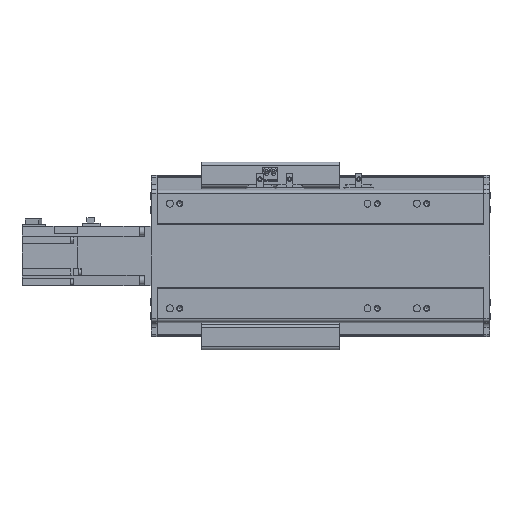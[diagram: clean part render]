
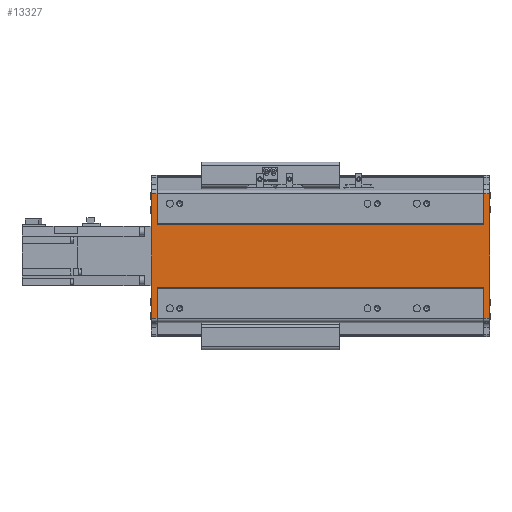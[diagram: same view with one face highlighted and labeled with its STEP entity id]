
A CAD part, front view. The second image highlights one B-rep face of the part: STEP entity #13327.
In plain terms, the highlighted planar face has unit normal (0, -1, 0).
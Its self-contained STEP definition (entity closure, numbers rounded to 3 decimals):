
#2855=ORIENTED_EDGE('',*,*,#5740,.T.);
#2856=ORIENTED_EDGE('',*,*,#5741,.F.);
#2857=ORIENTED_EDGE('',*,*,#5742,.F.);
#2858=ORIENTED_EDGE('',*,*,#5743,.F.);
#2859=ORIENTED_EDGE('',*,*,#5662,.F.);
#2860=ORIENTED_EDGE('',*,*,#5744,.F.);
#2861=ORIENTED_EDGE('',*,*,#5745,.F.);
#2862=ORIENTED_EDGE('',*,*,#5746,.T.);
#2863=ORIENTED_EDGE('',*,*,#5660,.T.);
#2864=ORIENTED_EDGE('',*,*,#5747,.T.);
#2865=ORIENTED_EDGE('',*,*,#5748,.F.);
#2866=ORIENTED_EDGE('',*,*,#5738,.T.);
#5660=EDGE_CURVE('',#7243,#7248,#8526,.T.);
#5662=EDGE_CURVE('',#7249,#7251,#8527,.T.);
#5738=EDGE_CURVE('',#7306,#7305,#8583,.T.);
#5740=EDGE_CURVE('',#7305,#7307,#8584,.T.);
#5741=EDGE_CURVE('',#7308,#7307,#8585,.T.);
#5742=EDGE_CURVE('',#7309,#7308,#8586,.T.);
#5743=EDGE_CURVE('',#7251,#7309,#8587,.T.);
#5744=EDGE_CURVE('',#7310,#7249,#8588,.T.);
#5745=EDGE_CURVE('',#7311,#7310,#8589,.T.);
#5746=EDGE_CURVE('',#7311,#7243,#8590,.T.);
#5747=EDGE_CURVE('',#7248,#7312,#8591,.T.);
#5748=EDGE_CURVE('',#7306,#7312,#8592,.T.);
#7243=VERTEX_POINT('',#21375);
#7248=VERTEX_POINT('',#21385);
#7249=VERTEX_POINT('',#21389);
#7251=VERTEX_POINT('',#21392);
#7305=VERTEX_POINT('',#21537);
#7306=VERTEX_POINT('',#21539);
#7307=VERTEX_POINT('',#21543);
#7308=VERTEX_POINT('',#21545);
#7309=VERTEX_POINT('',#21547);
#7310=VERTEX_POINT('',#21550);
#7311=VERTEX_POINT('',#21552);
#7312=VERTEX_POINT('',#21555);
#8526=LINE('',#21386,#9863);
#8527=LINE('',#21391,#9864);
#8583=LINE('',#21538,#9920);
#8584=LINE('',#21542,#9921);
#8585=LINE('',#21544,#9922);
#8586=LINE('',#21546,#9923);
#8587=LINE('',#21548,#9924);
#8588=LINE('',#21549,#9925);
#8589=LINE('',#21551,#9926);
#8590=LINE('',#21553,#9927);
#8591=LINE('',#21554,#9928);
#8592=LINE('',#21556,#9929);
#9863=VECTOR('',#17152,1000.);
#9864=VECTOR('',#17157,1000.);
#9920=VECTOR('',#17285,1000.);
#9921=VECTOR('',#17290,1000.);
#9922=VECTOR('',#17291,1000.);
#9923=VECTOR('',#17292,1000.);
#9924=VECTOR('',#17293,1000.);
#9925=VECTOR('',#17294,1000.);
#9926=VECTOR('',#17295,1000.);
#9927=VECTOR('',#17296,1000.);
#9928=VECTOR('',#17297,1000.);
#9929=VECTOR('',#17298,1000.);
#10900=EDGE_LOOP('',(#2855,#2856,#2857,#2858,#2859,#2860,#2861,#2862,#2863,
#2864,#2865,#2866));
#11901=FACE_BOUND('',#10900,.T.);
#12696=PLANE('',#14460);
#13327=ADVANCED_FACE('',(#11901),#12696,.F.);
#14460=AXIS2_PLACEMENT_3D('',#21541,#17288,#17289);
#17152=DIRECTION('',(0.,0.,-1.));
#17157=DIRECTION('',(0.,0.,1.));
#17285=DIRECTION('',(-1.,0.,0.));
#17288=DIRECTION('',(0.,1.,0.));
#17289=DIRECTION('',(0.,0.,1.));
#17290=DIRECTION('',(0.,0.,-1.));
#17291=DIRECTION('',(-1.,0.,0.));
#17292=DIRECTION('',(0.,0.,-1.));
#17293=DIRECTION('',(-1.,0.,0.));
#17294=DIRECTION('',(-1.,0.,0.));
#17295=DIRECTION('',(0.,0.,-1.));
#17296=DIRECTION('',(-1.,0.,0.));
#17297=DIRECTION('',(-1.,0.,0.));
#17298=DIRECTION('',(0.,0.,-1.));
#21375=CARTESIAN_POINT('',(336.5,1.,63.128));
#21385=CARTESIAN_POINT('',(336.5,1.,32.));
#21386=CARTESIAN_POINT('',(336.5,1.,63.128));
#21389=CARTESIAN_POINT('',(336.5,1.,-63.128));
#21391=CARTESIAN_POINT('',(336.5,1.,66.5));
#21392=CARTESIAN_POINT('',(336.5,1.,-32.));
#21537=CARTESIAN_POINT('',(0.,1.,63.128));
#21538=CARTESIAN_POINT('',(6.,1.,63.128));
#21539=CARTESIAN_POINT('',(6.,1.,63.128));
#21541=CARTESIAN_POINT('',(6.,1.,63.128));
#21542=CARTESIAN_POINT('',(0.,1.,63.128));
#21543=CARTESIAN_POINT('',(0.,1.,-63.128));
#21544=CARTESIAN_POINT('',(6.,1.,-63.128));
#21545=CARTESIAN_POINT('',(6.,1.,-63.128));
#21546=CARTESIAN_POINT('',(6.,1.,63.128));
#21547=CARTESIAN_POINT('',(6.,1.,-32.));
#21548=CARTESIAN_POINT('',(336.5,1.,-32.));
#21549=CARTESIAN_POINT('',(342.5,1.,-63.128));
#21550=CARTESIAN_POINT('',(342.5,1.,-63.128));
#21551=CARTESIAN_POINT('',(342.5,1.,63.128));
#21552=CARTESIAN_POINT('',(342.5,1.,63.128));
#21553=CARTESIAN_POINT('',(342.5,1.,63.128));
#21554=CARTESIAN_POINT('',(336.5,1.,32.));
#21555=CARTESIAN_POINT('',(6.,1.,32.));
#21556=CARTESIAN_POINT('',(6.,1.,63.128));
